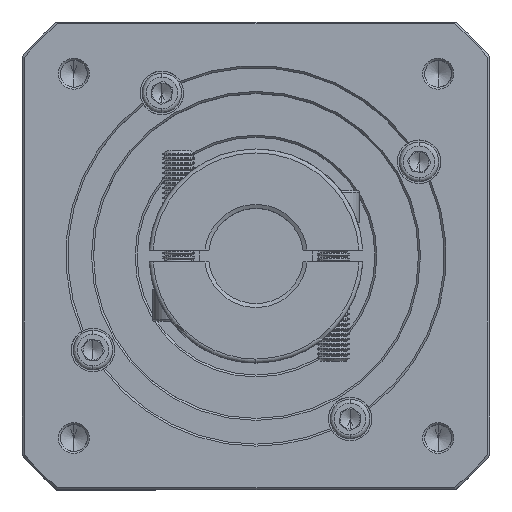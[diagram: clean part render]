
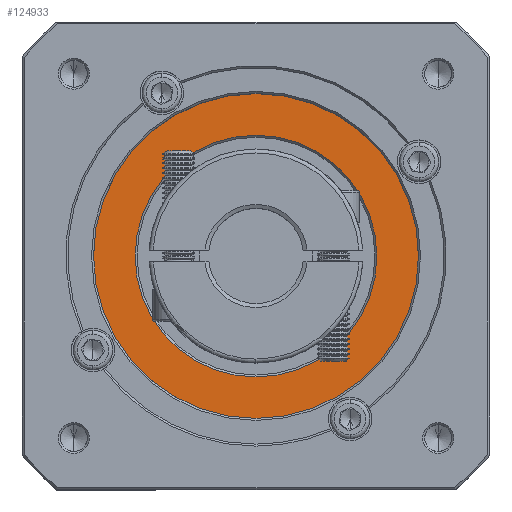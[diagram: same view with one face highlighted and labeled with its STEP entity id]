
A CAD part, top view. The second image highlights one B-rep face of the part: STEP entity #124933.
In plain terms, the highlighted planar face has unit normal (0, 0, 1).
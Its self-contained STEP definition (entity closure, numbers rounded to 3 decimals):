
#90 = CARTESIAN_POINT ( 'NONE',  ( 49.054, 59.884, -31.658 ) ) ;
#1962 = DIRECTION ( 'NONE',  ( -1., 0., 0. ) ) ;
#8202 = PLANE ( 'NONE',  #80193 ) ;
#13284 = DIRECTION ( 'NONE',  ( 0., 0., -1. ) ) ;
#13705 = VERTEX_POINT ( 'NONE', #138478 ) ;
#14023 = EDGE_CURVE ( 'NONE', #37721, #31345, #68450, .T. ) ;
#17029 = ORIENTED_EDGE ( 'NONE', *, *, #108558, .T. ) ;
#19713 = AXIS2_PLACEMENT_3D ( 'NONE', #85209, #32401, #20164 ) ;
#20164 = DIRECTION ( 'NONE',  ( -1., 0., 0. ) ) ;
#31290 = CARTESIAN_POINT ( 'NONE',  ( 49.054, 59.884, -31.658 ) ) ;
#31345 = VERTEX_POINT ( 'NONE', #55708 ) ;
#32401 = DIRECTION ( 'NONE',  ( 0., 0., -1. ) ) ;
#35746 = CARTESIAN_POINT ( 'NONE',  ( 49.054, 100.884, -31.658 ) ) ;
#37721 = VERTEX_POINT ( 'NONE', #127045 ) ;
#54656 = DIRECTION ( 'NONE',  ( 0., 0., 1. ) ) ;
#55708 = CARTESIAN_POINT ( 'NONE',  ( 79.554, 59.884, -31.658 ) ) ;
#61826 = VERTEX_POINT ( 'NONE', #35746 ) ;
#62057 = ORIENTED_EDGE ( 'NONE', *, *, #14023, .T. ) ;
#63173 = AXIS2_PLACEMENT_3D ( 'NONE', #90, #107036, #96262 ) ;
#65088 = ORIENTED_EDGE ( 'NONE', *, *, #96224, .T. ) ;
#66229 = EDGE_LOOP ( 'NONE', ( #62057, #17029 ) ) ;
#68450 = CIRCLE ( 'NONE', #82672, 30.5 ) ;
#75836 = DIRECTION ( 'NONE',  ( 0., -1., 0. ) ) ;
#76013 = FACE_OUTER_BOUND ( 'NONE', #108616, .T. ) ;
#80193 = AXIS2_PLACEMENT_3D ( 'NONE', #31290, #93981, #94904 ) ;
#82672 = AXIS2_PLACEMENT_3D ( 'NONE', #130991, #13284, #1962 ) ;
#85209 = CARTESIAN_POINT ( 'NONE',  ( 49.054, 59.884, -31.658 ) ) ;
#87005 = EDGE_CURVE ( 'NONE', #13705, #61826, #133937, .T. ) ;
#87808 = FACE_BOUND ( 'NONE', #66229, .T. ) ;
#93981 = DIRECTION ( 'NONE',  ( 0., 0., 1. ) ) ;
#94904 = DIRECTION ( 'NONE',  ( 0., -1., 0. ) ) ;
#96224 = EDGE_CURVE ( 'NONE', #61826, #13705, #111227, .T. ) ;
#96262 = DIRECTION ( 'NONE',  ( 0., -1., 0. ) ) ;
#96569 = CARTESIAN_POINT ( 'NONE',  ( 49.054, 59.884, -31.658 ) ) ;
#99932 = AXIS2_PLACEMENT_3D ( 'NONE', #96569, #54656, #75836 ) ;
#107036 = DIRECTION ( 'NONE',  ( 0., 0., 1. ) ) ;
#108558 = EDGE_CURVE ( 'NONE', #31345, #37721, #128258, .T. ) ;
#108616 = EDGE_LOOP ( 'NONE', ( #128187, #65088 ) ) ;
#111227 = CIRCLE ( 'NONE', #63173, 41. ) ;
#124933 = ADVANCED_FACE ( 'NONE', ( #76013, #87808 ), #8202, .T. ) ;
#127045 = CARTESIAN_POINT ( 'NONE',  ( 18.554, 59.884, -31.658 ) ) ;
#128187 = ORIENTED_EDGE ( 'NONE', *, *, #87005, .T. ) ;
#128258 = CIRCLE ( 'NONE', #19713, 30.5 ) ;
#130991 = CARTESIAN_POINT ( 'NONE',  ( 49.054, 59.884, -31.658 ) ) ;
#133937 = CIRCLE ( 'NONE', #99932, 41. ) ;
#138478 = CARTESIAN_POINT ( 'NONE',  ( 49.054, 18.884, -31.658 ) ) ;
